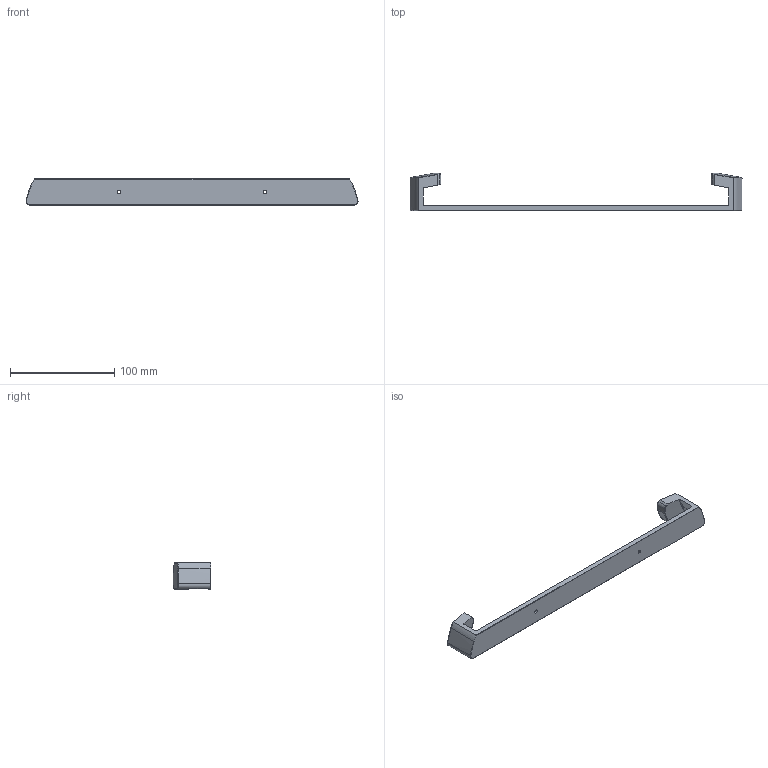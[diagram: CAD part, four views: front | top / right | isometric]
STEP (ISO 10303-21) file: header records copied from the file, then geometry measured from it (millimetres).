
FILE_DESCRIPTION (( 'STEP AP214' ), '1' );
FILE_NAME ('Topfdeckelhalterung 32cm.STEP', '2025-06-14T10:50:54', ( '' ), ( '' ), 'SwSTEP 2.0', 'SolidWorks 2012', '' );
FILE_SCHEMA (( 'AUTOMOTIVE_DESIGN' ));
Length unit declared in the file: millimetre
Products named in the file (1): Topfdeckelhalterung 32cm
Bounding box: 317.74 x 35.89 x 25 mm (x, y, z)
Volume: 52384.8 mm3; surface area: 23883.8 mm2
Topology: 1 solids, 1 shells, 125 faces, 313 edges, 188 vertices
Faces by surface type: bspline 60, cylinder 25, plane 20, cone 10, torus 10
Entity records: 6022 total; most frequent: CARTESIAN_POINT 3480, ORIENTED_EDGE 622, DIRECTION 391, EDGE_CURVE 311, VERTEX_POINT 188, AXIS2_PLACEMENT_3D 162, B_SPLINE_CURVE_WITH_KNOTS 142, EDGE_LOOP 129
